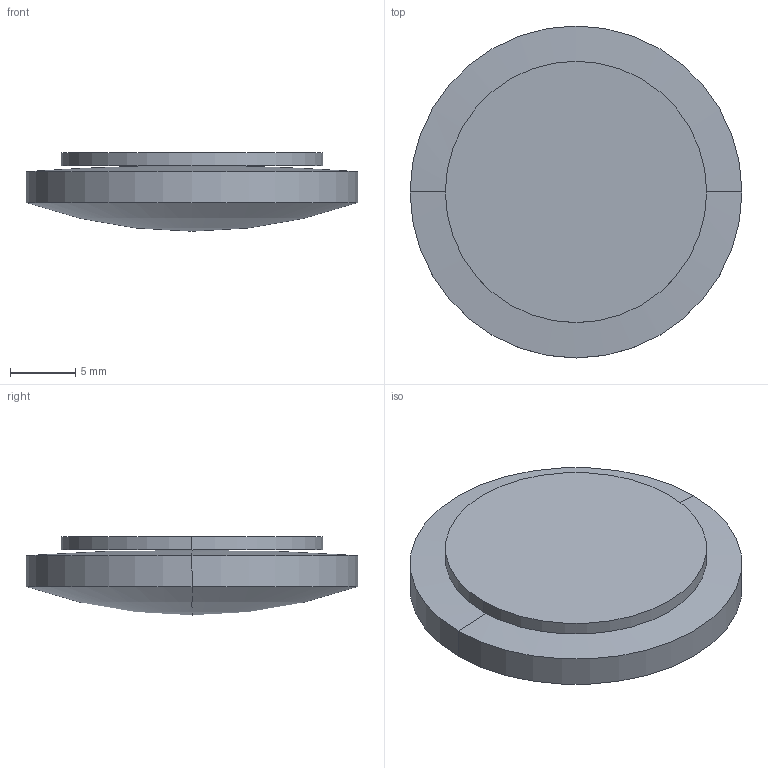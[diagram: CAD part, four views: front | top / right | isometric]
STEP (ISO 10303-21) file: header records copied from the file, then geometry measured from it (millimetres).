
FILE_DESCRIPTION(('STEP AP214'),'1');
FILE_NAME('LLV-25-63.STEP','2020-03-09T17:42:19',(' '),(' '),'Spatial InterOp 3D',' ',' ');
FILE_SCHEMA(('AUTOMOTIVE_DESIGN { 1 0 10303 214 1 1 1 1 }'));
Length unit declared in the file: millimetre
Products named in the file (1): 1
Bounding box: 25.4 x 25.4 x 6 mm (x, y, z)
Volume: 2186.4 mm3; surface area: 1909.2 mm2
Topology: 2 solids, 2 shells, 10 faces, 20 edges, 10 vertices
Faces by surface type: sphere 4, cylinder 4, plane 2
Entity records: 255 total; most frequent: DIRECTION 52, CARTESIAN_POINT 38, ORIENTED_EDGE 32, AXIS2_PLACEMENT_3D 24, EDGE_CURVE 16, CIRCLE 12, ADVANCED_FACE 10, FACE_OUTER_BOUND 10
